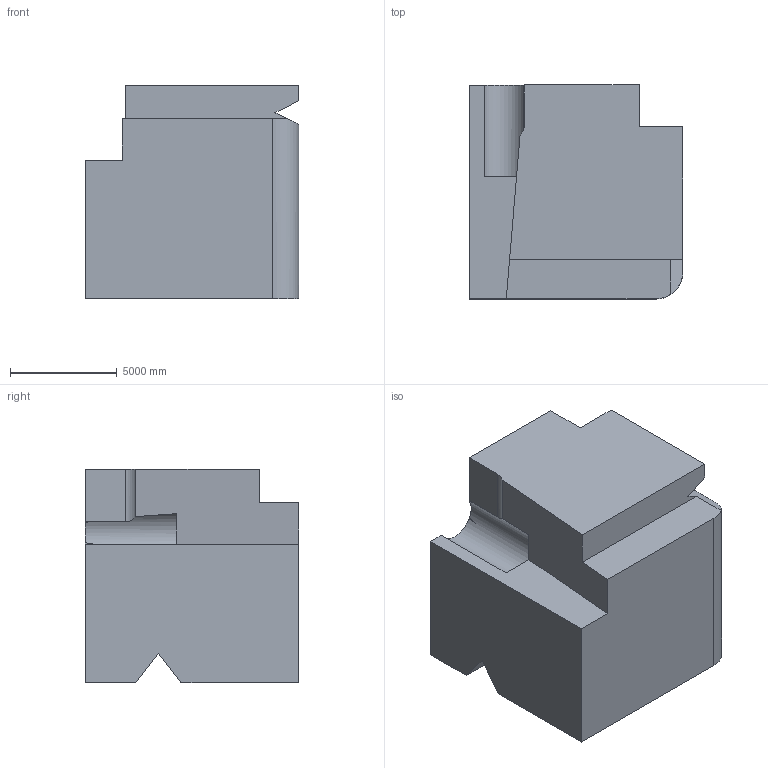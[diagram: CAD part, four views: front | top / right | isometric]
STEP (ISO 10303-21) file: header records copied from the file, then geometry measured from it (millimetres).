
FILE_DESCRIPTION (( 'STEP AP203' ), '1' );
FILE_NAME ('1782.STEP', '2022-08-19T12:50:25', ( 'user' ), ( '' ), 'SwSTEP 2.0', 'SolidWorks 2021', '' );
FILE_SCHEMA (( 'CONFIG_CONTROL_DESIGN' ));
Length unit declared in the file: centimetre
Products named in the file (1): 1782
Bounding box: 10000 x 10000 x 10000 mm (x, y, z)
Volume: 834661996108.2 mm3; surface area: 586727409 mm2
Topology: 1 solids, 1 shells, 27 faces, 74 edges, 49 vertices
Faces by surface type: plane 24, cylinder 3
Entity records: 949 total; most frequent: CARTESIAN_POINT 190, ORIENTED_EDGE 148, DIRECTION 132, EDGE_CURVE 74, VECTOR 62, LINE 62, VERTEX_POINT 49, AXIS2_PLACEMENT_3D 35
